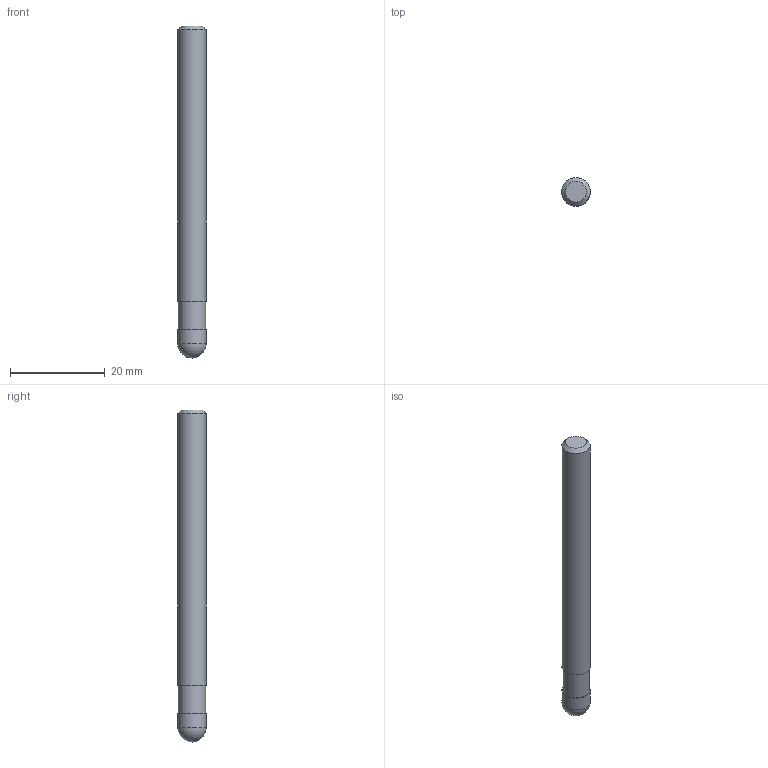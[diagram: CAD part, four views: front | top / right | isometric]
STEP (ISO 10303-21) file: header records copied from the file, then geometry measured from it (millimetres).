
FILE_DESCRIPTION((''),'2;1');
FILE_NAME('C:\Users\nsx150\AppData\Local\Temp\Mastercam 2021\ARV7HD45SN\TEMP.step','2023-06-13T16:39:43',(''),(''),'STEP Write','Mastercam 2021 ... CNC Software, Inc.','');
FILE_SCHEMA(('AUTOMOTIVE_DESIGN'));
Length unit declared in the file: millimetre
Products named in the file (1): None
Bounding box: 6 x 6 x 70 mm (x, y, z)
Volume: 1928.9 mm3; surface area: 1389 mm2
Topology: 2 solids, 2 shells, 9 faces, 13 edges, 8 vertices
Faces by surface type: plane 4, cylinder 3, sphere 1, cone 1
Full cylindrical faces by diameter (mm): 5.7 x1, 6 x2
Entity records: 211 total; most frequent: DIRECTION 36, CARTESIAN_POINT 25, AXIS2_PLACEMENT_3D 18, ORIENTED_EDGE 14, EDGE_LOOP 14, STYLED_ITEM 12, ADVANCED_FACE 9, FACE_BOUND 8
